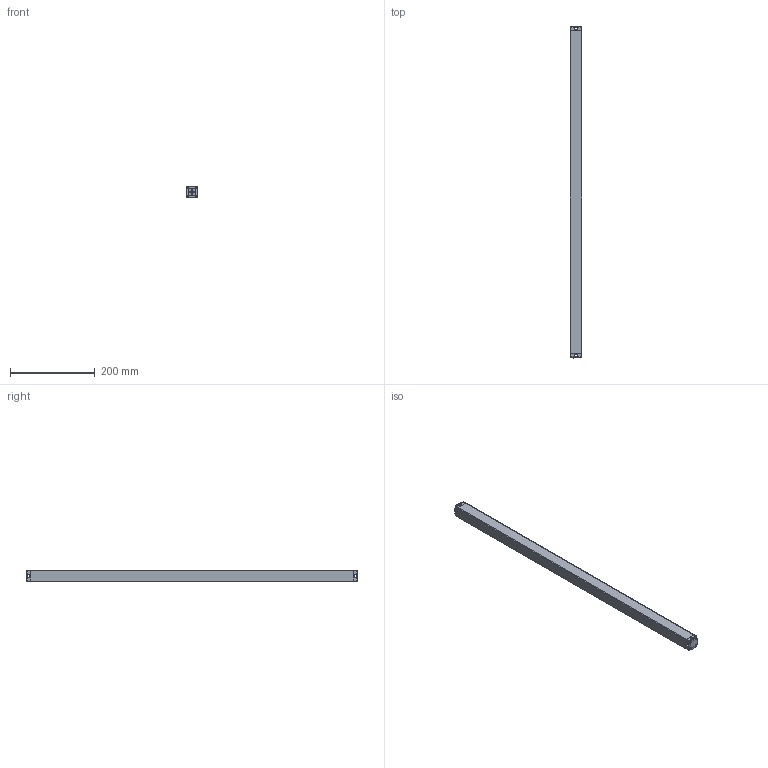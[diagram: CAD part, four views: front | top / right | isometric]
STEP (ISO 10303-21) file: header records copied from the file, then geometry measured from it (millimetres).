
FILE_DESCRIPTION((''),'2;1');
FILE_NAME('ELD00_ASM','2021-07-20T09:51:14',('18720616900'),(''),'CREO PARAMETRIC BY PTC INC, 2019010','CREO PARAMETRIC BY PTC INC, 2019010','');
FILE_SCHEMA(('CONFIG_CONTROL_DESIGN'));
Length unit declared in the file: millimetre
Products named in the file (6): ELD--00; ELD--000; ST-3-12; ELD00_ASM
Assembly tree (12 placements, depth 2):
  ELD00_ASM
    ELD--00
    ELD--000
    ELD--000
    ELD--000
    ST-3-12  x8
Bounding box: 28 x 782 x 28 mm (x, y, z)
Volume: 608880.4 mm3; surface area: 129668 mm2
Topology: 12 solids, 12 shells, 792 faces, 2082 edges, 1296 vertices
Faces by surface type: plane 236, cone 172, bspline 168, cylinder 156, torus 44, sphere 16
Entity records: 14414 total; most frequent: CARTESIAN_POINT 6863, ORIENTED_EDGE 1584, DIRECTION 1469, EDGE_CURVE 792, AXIS2_PLACEMENT_3D 520, VERTEX_POINT 491, VECTOR 429, LINE 429
